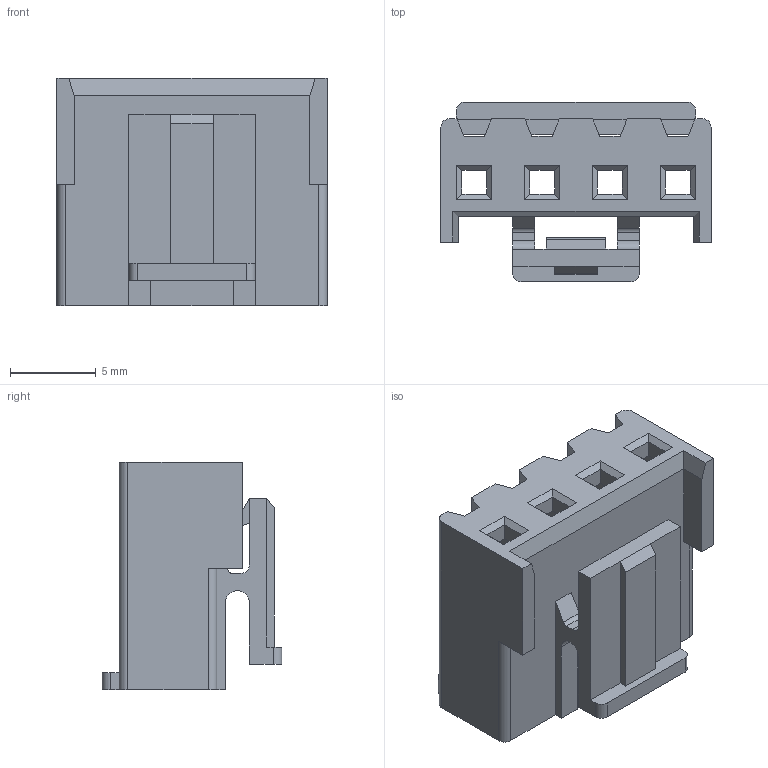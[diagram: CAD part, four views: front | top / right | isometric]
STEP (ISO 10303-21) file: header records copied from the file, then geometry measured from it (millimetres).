
FILE_DESCRIPTION((''),'2;1');
FILE_NAME('51282-005HXXX-XXX-NEW','2015-07-11T',('d20783'),(''),'PRO/ENGINEER BY PARAMETRIC TECHNOLOGY CORPORATION, 2009360','PRO/ENGINEER BY PARAMETRIC TECHNOLOGY CORPORATION, 2009360','');
FILE_SCHEMA(('CONFIG_CONTROL_DESIGN'));
Length unit declared in the file: millimetre
Products named in the file (1): 51282-005HXXX-XXX-NEW
Bounding box: 15.78 x 10.5 x 13.3 mm (x, y, z)
Volume: 637.8 mm3; surface area: 1751.4 mm2
Topology: 1 solids, 1 shells, 164 faces, 494 edges, 322 vertices
Faces by surface type: plane 149, cylinder 15
Entity records: 5506 total; most frequent: ORIENTED_EDGE 988, CARTESIAN_POINT 980, DIRECTION 852, EDGE_CURVE 494, VECTOR 464, LINE 464, VERTEX_POINT 322, AXIS2_PLACEMENT_3D 194
